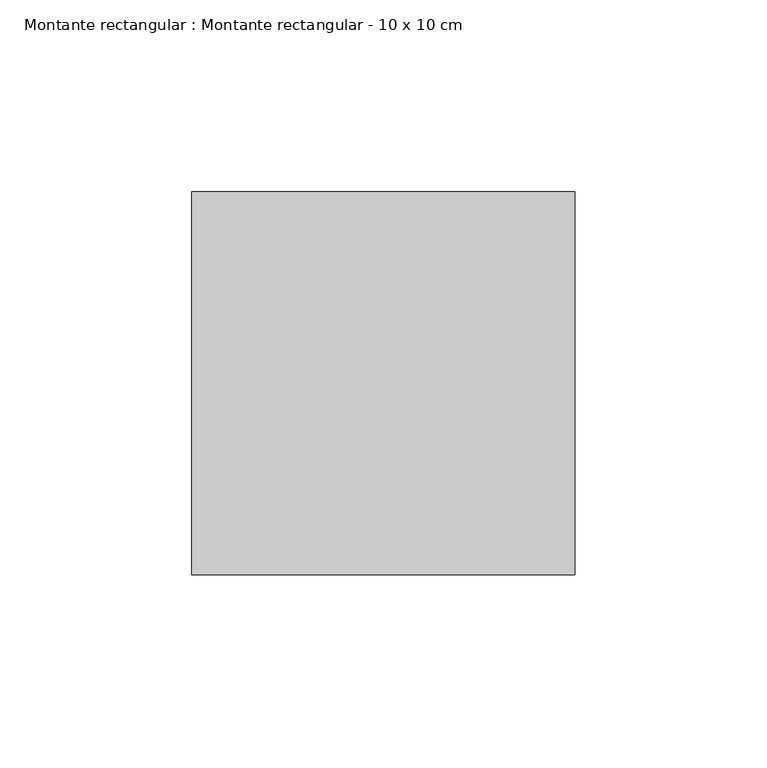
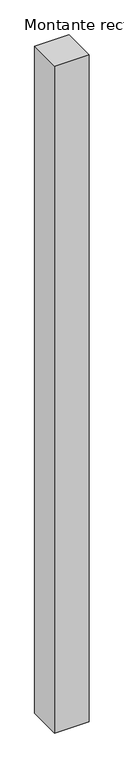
"""IFC4 building model written with IfcOpenShell, lengths in millimetres: member geometry, Montante rectangular : Montante rectangular - 10 x 10 cm."""

from ifc_helpers import new_model, si_unit, frame, origin, place, context, project, spatial, polyline, outline, extrude, source, transform, mapped, element, save


def montante_rectangular_montante_rectangular_10_x_10_cm_2c1c0a31(model_context):
    return source(origin(), model_context, "Body", "SweptSolid", [
        extrude(outline(polyline([(50.0, 50.0), (50.0, -50.0), (-50.0, -50.0), (-50.0, 50.0), (50.0, 50.0)])), frame((0.0, 0.0, -2050.0), z_axis=(0.0, 0.0, 1.0), x_axis=(1.0, 0.0, 0.0)), (0.0, 0.0, 1.0), 2050.0),
    ])


if __name__ == "__main__":
    model = new_model("IFC4")
    model_context = context("Model", 3, world=origin())
    ifc_project = project(units=[si_unit("LENGTHUNIT", "METRE", prefix="MILLI")], contexts=[model_context])
    site = spatial("IfcSite", under=ifc_project)
    building = spatial("IfcBuilding", under=site)
    placement = place(None, origin())
    montante_rectangular_montante_rectangular_10_x_10_cm_shape = montante_rectangular_montante_rectangular_10_x_10_cm_2c1c0a31(model_context)
    element("IfcMember", 1, ObjectType="Montante rectangular : Montante rectangular - 10 x 10 cm", at=placement, inside=building, context=model_context, shape_type="MappedRepresentation", body=[
        mapped(montante_rectangular_montante_rectangular_10_x_10_cm_shape, transform((0.0, 0.0, 0.0), x_axis=(1.0, 0.0, 0.0), y_axis=(0.0, 1.0, 0.0), z_axis=(0.0, 0.0, 1.0))),
    ])
    save(model, "model.ifc")
